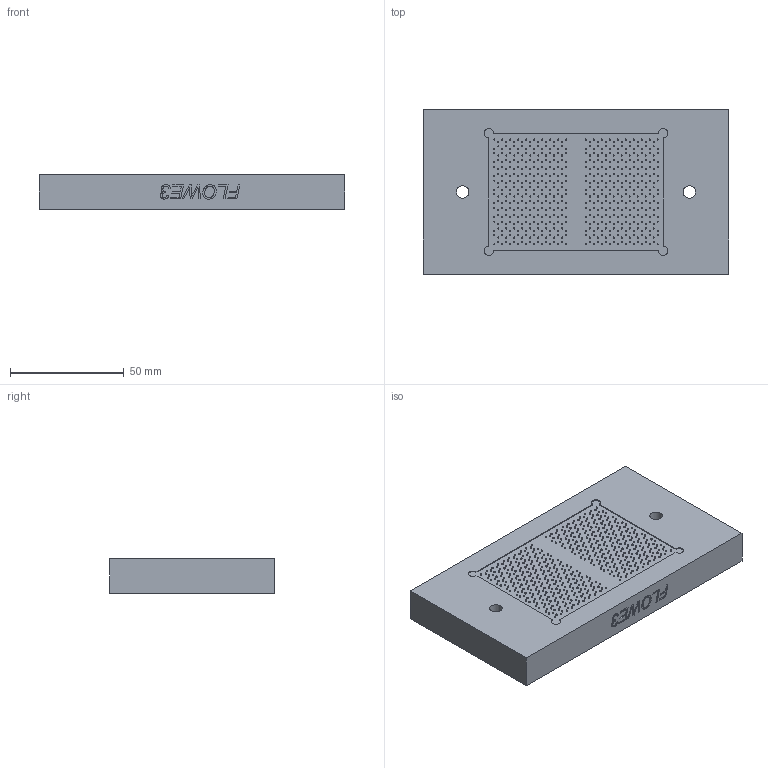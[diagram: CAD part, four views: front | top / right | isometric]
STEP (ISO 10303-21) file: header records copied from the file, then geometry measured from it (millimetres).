
FILE_DESCRIPTION(/* description */ ('Unknown','CAx-IF Rec.Pracs.---Representation and Presentation of Product Manufacturing Information (PMI)---4.0---2014-10-13','CAx-IF Rec.Pracs.---3D Tessellated Geometry---0.4---2014-09-14','2;1'),/* implementation_level */ '2;1');
FILE_NAME(/* name */ 'flowE3-0F-TIM',/* time_stamp */ '2026-01-13T13:58:18+01:00',/* author */ ('Unknown'),/* organization */ ('Unknown'),/* preprocessor_version */ 'ST-DEVELOPER v20',/* originating_system */ 'Solid Edge',/* authorisation */ 'Unknown');
FILE_SCHEMA (('AP242_MANAGED_MODEL_BASED_3D_ENGINEERING_MIM_LF { 1 0 10303 442 1 1 4 }'));
Length unit declared in the file: millimetre
Products named in the file (1): flowE3-0F-TIM
Bounding box: 134 x 72 x 15 mm (x, y, z)
Volume: 142255.2 mm3; surface area: 26656.2 mm2
Topology: 1 solids, 1 shells, 1296 faces, 2034 edges, 1356 vertices
Faces by surface type: plane 664, cylinder 618, bspline 12, cone 2
Full cylindrical faces by diameter (mm): 0.5 x608, 3.242 x4, 5.5 x2
Entity records: 36360 total; most frequent: DIRECTION 5192, CARTESIAN_POINT 4746, ORIENTED_EDGE 2820, FACE_BOUND 2536, EDGE_LOOP 2534, AXIS2_PLACEMENT_3D 2520, EDGE_CURVE 1410, VERTEX_POINT 1352
